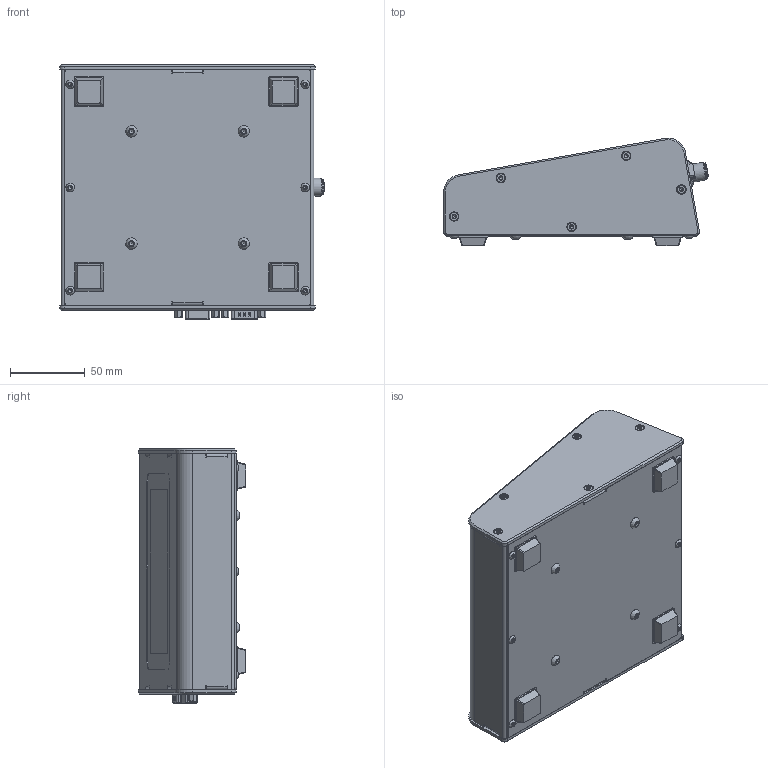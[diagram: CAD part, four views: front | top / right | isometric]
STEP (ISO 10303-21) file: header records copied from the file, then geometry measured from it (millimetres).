
FILE_DESCRIPTION (( 'STEP AP214' ), '1' );
FILE_NAME ('MISURATORE DI COPPIA TQA 020410.STEP', '2025-10-02T14:10:47', ( '' ), ( '' ), 'SwSTEP 2.0', 'SolidWorks 2024', '' );
FILE_SCHEMA (( 'AUTOMOTIVE_DESIGN' ));
Length unit declared in the file: millimetre
Products named in the file (1): MISURATORE DI COPPIA TQA  020410
Bounding box: 176.87 x 71.7 x 170 mm (x, y, z)
Surface area: 173312.2 mm2 (no closed solid volume)
Topology: 0 solids, 131 shells, 1645 faces, 7647 edges, 5920 vertices
Faces by surface type: plane 893, cylinder 572, bspline 127, cone 52, torus 1
Full cylindrical faces by diameter (mm): 1 x9, 1.2 x9, 1.3 x8, 1.778 x1, 2.54 x1, 2.8 x9, 3.121 x4, 5.5 x10, 5.842 x1, 6.934 x5, 7.925 x1, 8.2 x1, 8.5 x2, 9.65 x1, 10.5 x1, 12 x1
Entity records: 108059 total; most frequent: CARTESIAN_POINT 33226, DIRECTION 10863, ORIENTED_EDGE 10187, EDGE_CURVE 7457, VERTEX_POINT 5865, VECTOR 4479, LINE 4479, AXIS2_PLACEMENT_3D 3192
